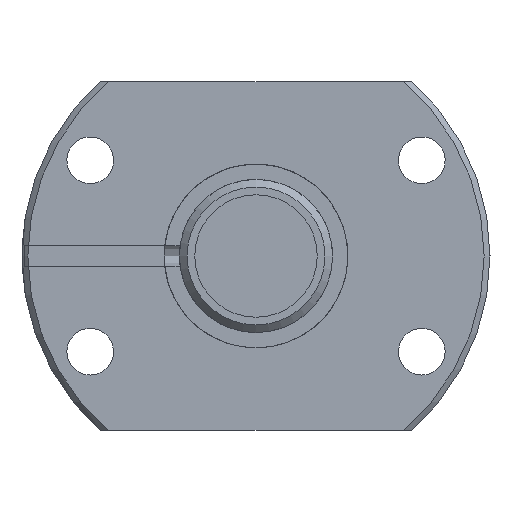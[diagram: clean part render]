
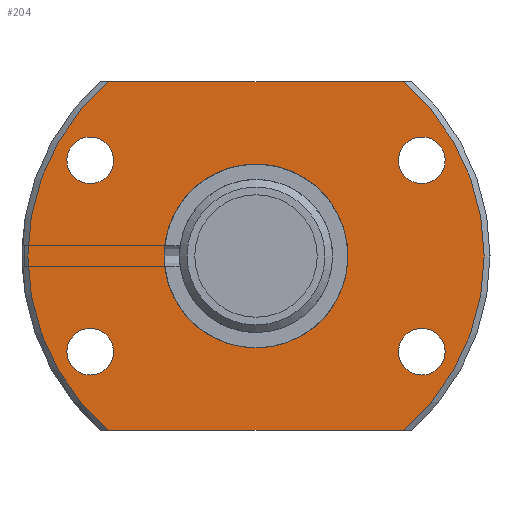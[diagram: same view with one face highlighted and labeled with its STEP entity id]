
A CAD part, left-side view. The second image highlights one B-rep face of the part: STEP entity #204.
In plain terms, the highlighted planar face has unit normal (-1, 0, 0).
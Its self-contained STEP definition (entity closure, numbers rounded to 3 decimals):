
#204 = ADVANCED_FACE( '', ( #311, #312, #313, #314, #315, #316 ), #317, .T. );
#311 = FACE_BOUND( '', #427, .T. );
#312 = FACE_OUTER_BOUND( '', #428, .T. );
#313 = FACE_BOUND( '', #429, .T. );
#314 = FACE_BOUND( '', #430, .T. );
#315 = FACE_BOUND( '', #431, .T. );
#316 = FACE_BOUND( '', #432, .T. );
#317 = PLANE( '', #433 );
#427 = EDGE_LOOP( '', ( #642 ) );
#428 = EDGE_LOOP( '', ( #643, #644, #645, #646 ) );
#429 = EDGE_LOOP( '', ( #647 ) );
#430 = EDGE_LOOP( '', ( #648 ) );
#431 = EDGE_LOOP( '', ( #649 ) );
#432 = EDGE_LOOP( '', ( #650 ) );
#433 = AXIS2_PLACEMENT_3D( '', #651, #652, #653 );
#642 = ORIENTED_EDGE( '', *, *, #718, .T. );
#643 = ORIENTED_EDGE( '', *, *, #738, .F. );
#644 = ORIENTED_EDGE( '', *, *, #703, .F. );
#645 = ORIENTED_EDGE( '', *, *, #709, .F. );
#646 = ORIENTED_EDGE( '', *, *, #739, .F. );
#647 = ORIENTED_EDGE( '', *, *, #695, .T. );
#648 = ORIENTED_EDGE( '', *, *, #697, .T. );
#649 = ORIENTED_EDGE( '', *, *, #699, .T. );
#650 = ORIENTED_EDGE( '', *, *, #701, .T. );
#651 = CARTESIAN_POINT( '', ( 0., 53.625, 0. ) );
#652 = DIRECTION( '', ( -1., 0., 0. ) );
#653 = DIRECTION( '', ( 0., 0., 1. ) );
#695 = EDGE_CURVE( '', #771, #771, #772, .T. );
#697 = EDGE_CURVE( '', #775, #775, #776, .T. );
#699 = EDGE_CURVE( '', #779, #779, #780, .T. );
#701 = EDGE_CURVE( '', #783, #783, #784, .T. );
#703 = EDGE_CURVE( '', #785, #788, #789, .T. );
#709 = EDGE_CURVE( '', #798, #785, #800, .T. );
#718 = EDGE_CURVE( '', #815, #815, #816, .T. );
#738 = EDGE_CURVE( '', #788, #849, #850, .T. );
#739 = EDGE_CURVE( '', #849, #798, #851, .T. );
#771 = VERTEX_POINT( '', #944 );
#772 = CIRCLE( '', #945, 5.5 );
#775 = VERTEX_POINT( '', #948 );
#776 = CIRCLE( '', #949, 5.5 );
#779 = VERTEX_POINT( '', #952 );
#780 = CIRCLE( '', #953, 5.5 );
#783 = VERTEX_POINT( '', #956 );
#784 = CIRCLE( '', #957, 5.5 );
#785 = VERTEX_POINT( '', #958 );
#788 = VERTEX_POINT( '', #964 );
#789 = CIRCLE( '', #965, 53.625 );
#798 = VERTEX_POINT( '', #981 );
#800 = LINE( '', #986, #987 );
#815 = VERTEX_POINT( '', #1043 );
#816 = CIRCLE( '', #1044, 21.6 );
#849 = VERTEX_POINT( '', #1118 );
#850 = LINE( '', #1119, #1120 );
#851 = CIRCLE( '', #1121, 53.625 );
#944 = CARTESIAN_POINT( '', ( 0., 38.971, -28. ) );
#945 = AXIS2_PLACEMENT_3D( '', #1168, #1169, #1170 );
#948 = CARTESIAN_POINT( '', ( 0., -38.971, -28. ) );
#949 = AXIS2_PLACEMENT_3D( '', #1174, #1175, #1176 );
#952 = CARTESIAN_POINT( '', ( 0., -38.971, 17. ) );
#953 = AXIS2_PLACEMENT_3D( '', #1180, #1181, #1182 );
#956 = CARTESIAN_POINT( '', ( 0., 38.971, 17. ) );
#957 = AXIS2_PLACEMENT_3D( '', #1186, #1187, #1188 );
#958 = CARTESIAN_POINT( '', ( 0., 34.564, -41. ) );
#964 = CARTESIAN_POINT( '', ( 0., 34.564, 41. ) );
#965 = AXIS2_PLACEMENT_3D( '', #1189, #1190, #1191 );
#981 = CARTESIAN_POINT( '', ( 0., -34.564, -41. ) );
#986 = CARTESIAN_POINT( '', ( 0., -55.1, -41. ) );
#987 = VECTOR( '', #1196, 1000. );
#1043 = CARTESIAN_POINT( '', ( 0., 0., -21.6 ) );
#1044 = AXIS2_PLACEMENT_3D( '', #1208, #1209, #1210 );
#1118 = CARTESIAN_POINT( '', ( 0., -34.564, 41. ) );
#1119 = CARTESIAN_POINT( '', ( 0., 55.1, 41. ) );
#1120 = VECTOR( '', #1252, 1000. );
#1121 = AXIS2_PLACEMENT_3D( '', #1253, #1254, #1255 );
#1168 = CARTESIAN_POINT( '', ( 0., 38.971, -22.5 ) );
#1169 = DIRECTION( '', ( 1., 0., 0. ) );
#1170 = DIRECTION( '', ( 0., 0., -1. ) );
#1174 = CARTESIAN_POINT( '', ( 0., -38.971, -22.5 ) );
#1175 = DIRECTION( '', ( 1., 0., 0. ) );
#1176 = DIRECTION( '', ( 0., 0., -1. ) );
#1180 = CARTESIAN_POINT( '', ( 0., -38.971, 22.5 ) );
#1181 = DIRECTION( '', ( 1., 0., 0. ) );
#1182 = DIRECTION( '', ( 0., 0., -1. ) );
#1186 = CARTESIAN_POINT( '', ( 0., 38.971, 22.5 ) );
#1187 = DIRECTION( '', ( 1., 0., 0. ) );
#1188 = DIRECTION( '', ( 0., 0., -1. ) );
#1189 = CARTESIAN_POINT( '', ( 0., 0., 0. ) );
#1190 = DIRECTION( '', ( 1., 0., 0. ) );
#1191 = DIRECTION( '', ( 0., 0., -1. ) );
#1196 = DIRECTION( '', ( 0., 1., 0. ) );
#1208 = CARTESIAN_POINT( '', ( 0., 0., 0. ) );
#1209 = DIRECTION( '', ( 1., 0., 0. ) );
#1210 = DIRECTION( '', ( 0., 0., -1. ) );
#1252 = DIRECTION( '', ( 0., -1., 0. ) );
#1253 = CARTESIAN_POINT( '', ( 0., 0., 0. ) );
#1254 = DIRECTION( '', ( 1., 0., 0. ) );
#1255 = DIRECTION( '', ( 0., 0., -1. ) );
